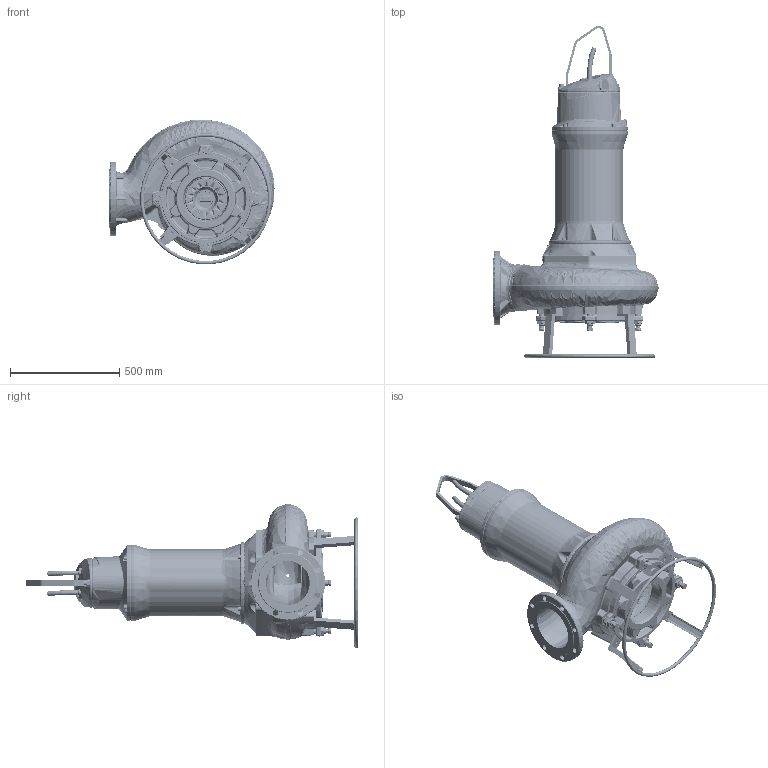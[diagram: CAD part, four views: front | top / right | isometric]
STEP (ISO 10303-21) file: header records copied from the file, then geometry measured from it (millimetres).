
FILE_DESCRIPTION (( 'STEP AP214' ), '1' );
FILE_NAME ('CFP 206J-CB2 SE3 Transportable.STEP', '2020-09-21T07:42:34', ( '' ), ( '' ), 'SwSTEP 2.0', 'SolidWorks 2017', '' );
FILE_SCHEMA (( 'AUTOMOTIVE_DESIGN' ));
Length unit declared in the file: millimetre
Products named in the file (1): CFP 206J-CB2 SE3 Transportable
Bounding box: 754.1 x 1515.9 x 660.31 mm (x, y, z)
Volume: 40037850.6 mm3; surface area: 5868981.3 mm2
Topology: 69 solids, 69 shells, 8742 faces, 21075 edges, 12107 vertices
Faces by surface type: bspline 2404, cylinder 2246, plane 1974, torus 1085, cone 562, sphere 471
Entity records: 529742 total; most frequent: CARTESIAN_POINT 249700, ORIENTED_EDGE 40652, DIRECTION 35018, EDGE_CURVE 20326, AXIS2_PLACEMENT_3D 14180, VERTEX_POINT 12105, EDGE_LOOP 9301, UNCERTAINTY_MEASURE_WITH_UNIT 8813
